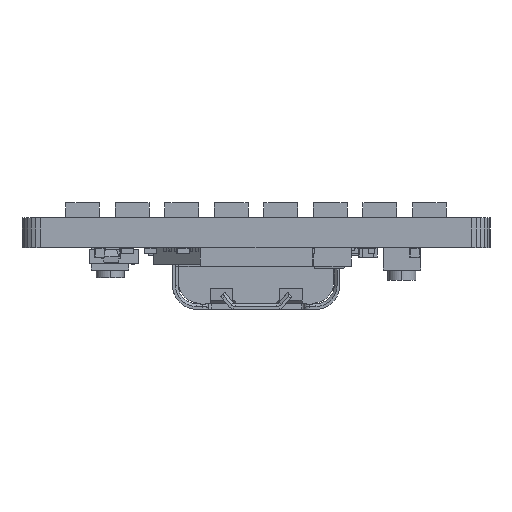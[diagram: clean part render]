
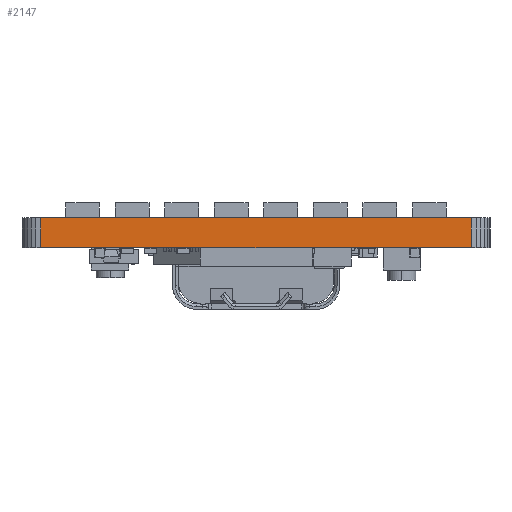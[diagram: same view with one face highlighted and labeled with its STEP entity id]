
A CAD part, front view. The second image highlights one B-rep face of the part: STEP entity #2147.
In plain terms, the highlighted planar face has unit normal (0, -1, 0).
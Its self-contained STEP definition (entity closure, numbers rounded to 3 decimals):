
#49=DIRECTION('',(1.,0.,0.));
#50=VECTOR('',#49,23.);
#51=CARTESIAN_POINT('',(-24.2,-2.349,1.6));
#52=LINE('',#51,#50);
#56=DIRECTION('',(0.,0.,-1.));
#57=VECTOR('',#56,1.6);
#58=CARTESIAN_POINT('',(-1.2,-2.34,1.6));
#59=LINE('',#58,#57);
#252=DIRECTION('',(1.,0.,0.));
#253=VECTOR('',#252,23.);
#254=CARTESIAN_POINT('',(-24.2,-2.349,0.));
#255=LINE('',#254,#253);
#968=DIRECTION('',(0.,0.,-1.));
#969=VECTOR('',#968,1.6);
#970=CARTESIAN_POINT('',(-24.2,-2.349,1.6));
#971=LINE('',#970,#969);
#1635=CARTESIAN_POINT('',(-1.2,-2.34,0.));
#1637=VERTEX_POINT('',#1635);
#1689=CARTESIAN_POINT('',(-24.2,-2.349,0.));
#1690=VERTEX_POINT('',#1689);
#1779=CARTESIAN_POINT('',(-1.2,-2.34,1.6));
#1781=VERTEX_POINT('',#1779);
#1833=CARTESIAN_POINT('',(-24.2,-2.349,1.6));
#1834=VERTEX_POINT('',#1833);
#2134=CARTESIAN_POINT('',(-24.2,-2.349,0.));
#2135=DIRECTION('',(0.,1.,0.));
#2136=DIRECTION('',(1.,0.,0.));
#2137=AXIS2_PLACEMENT_3D('',#2134,#2135,#2136);
#2138=PLANE('',#2137);
#2139=ORIENTED_EDGE('',*,*,#1945,.T.);
#2140=ORIENTED_EDGE('',*,*,#1934,.T.);
#2142=ORIENTED_EDGE('',*,*,#2141,.F.);
#2144=ORIENTED_EDGE('',*,*,#2143,.F.);
#2145=EDGE_LOOP('',(#2139,#2140,#2142,#2144));
#2146=FACE_OUTER_BOUND('',#2145,.F.);
#2147=ADVANCED_FACE('',(#2146),#2138,.F.);
#1934=EDGE_CURVE('',#1781,#1637,#59,.T.);
#1945=EDGE_CURVE('',#1834,#1781,#52,.T.);
#2141=EDGE_CURVE('',#1690,#1637,#255,.T.);
#2143=EDGE_CURVE('',#1834,#1690,#971,.T.);
